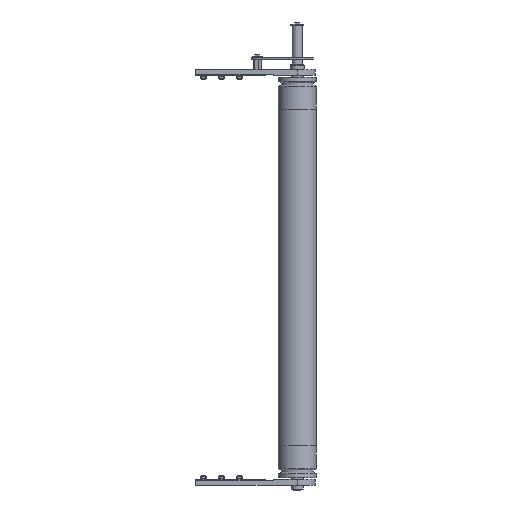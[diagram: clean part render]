
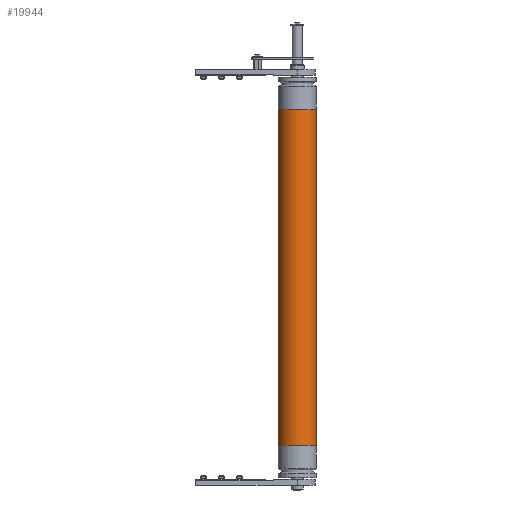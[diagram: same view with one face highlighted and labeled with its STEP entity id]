
A CAD part, front view. The second image highlights one B-rep face of the part: STEP entity #19944.
In plain terms, the highlighted cylindrical face has radius 48 mm (diameter 96 mm), a partial arc.
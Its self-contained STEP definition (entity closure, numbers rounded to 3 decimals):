
#13 = EDGE_CURVE ( 'NONE', #5269, #8183, #21031, .T. ) ;
#1163 = AXIS2_PLACEMENT_3D ( 'NONE', #14864, #7102, #7668 ) ;
#1458 = ORIENTED_EDGE ( 'NONE', *, *, #20141, .T. ) ;
#2918 = DIRECTION ( 'NONE',  ( -1., 0., 0. ) ) ;
#2924 = CARTESIAN_POINT ( 'NONE',  ( 421.5, 0., 48. ) ) ;
#3290 = AXIS2_PLACEMENT_3D ( 'NONE', #3875, #9401, #15272 ) ;
#3875 = CARTESIAN_POINT ( 'NONE',  ( 421.5, 0., 0. ) ) ;
#4069 = EDGE_CURVE ( 'NONE', #17756, #20746, #8475, .T. ) ;
#4096 = CARTESIAN_POINT ( 'NONE',  ( -421.5, 0., 48. ) ) ;
#4622 = CIRCLE ( 'NONE', #3290, 48. ) ;
#5269 = VERTEX_POINT ( 'NONE', #2924 ) ;
#6062 = CARTESIAN_POINT ( 'NONE',  ( 421.5, 0., -48. ) ) ;
#6513 = ORIENTED_EDGE ( 'NONE', *, *, #13, .T. ) ;
#6535 = CARTESIAN_POINT ( 'NONE',  ( 421.5, 0., 48. ) ) ;
#7102 = DIRECTION ( 'NONE',  ( -1., 0., 0. ) ) ;
#7668 = DIRECTION ( 'NONE',  ( 0., 0., 1. ) ) ;
#8048 = CIRCLE ( 'NONE', #10581, 48. ) ;
#8183 = VERTEX_POINT ( 'NONE', #4096 ) ;
#8475 = LINE ( 'NONE', #23337, #15890 ) ;
#8517 = DIRECTION ( 'NONE',  ( 0., 0., -1. ) ) ;
#8847 = DIRECTION ( 'NONE',  ( 1., 0., 0. ) ) ;
#9401 = DIRECTION ( 'NONE',  ( 1., 0., 0. ) ) ;
#9875 = EDGE_CURVE ( 'NONE', #5269, #17756, #4622, .T. ) ;
#10581 = AXIS2_PLACEMENT_3D ( 'NONE', #24035, #8847, #8517 ) ;
#11052 = ORIENTED_EDGE ( 'NONE', *, *, #4069, .F. ) ;
#11285 = EDGE_LOOP ( 'NONE', ( #11052, #23946, #6513, #1458 ) ) ;
#11803 = VECTOR ( 'NONE', #2918, 1000. ) ;
#14864 = CARTESIAN_POINT ( 'NONE',  ( 421.5, 0., 0. ) ) ;
#15272 = DIRECTION ( 'NONE',  ( 0., 0., -1. ) ) ;
#15890 = VECTOR ( 'NONE', #23665, 1000. ) ;
#17756 = VERTEX_POINT ( 'NONE', #6062 ) ;
#18914 = FACE_OUTER_BOUND ( 'NONE', #11285, .T. ) ;
#19944 = ADVANCED_FACE ( 'NONE', ( #18914 ), #24442, .T. ) ;
#20141 = EDGE_CURVE ( 'NONE', #8183, #20746, #8048, .T. ) ;
#20746 = VERTEX_POINT ( 'NONE', #24440 ) ;
#21031 = LINE ( 'NONE', #6535, #11803 ) ;
#23337 = CARTESIAN_POINT ( 'NONE',  ( 421.5, 0., -48. ) ) ;
#23665 = DIRECTION ( 'NONE',  ( -1., 0., 0. ) ) ;
#23946 = ORIENTED_EDGE ( 'NONE', *, *, #9875, .F. ) ;
#24035 = CARTESIAN_POINT ( 'NONE',  ( -421.5, 0., 0. ) ) ;
#24440 = CARTESIAN_POINT ( 'NONE',  ( -421.5, 0., -48. ) ) ;
#24442 = CYLINDRICAL_SURFACE ( 'NONE', #1163, 48. ) ;
